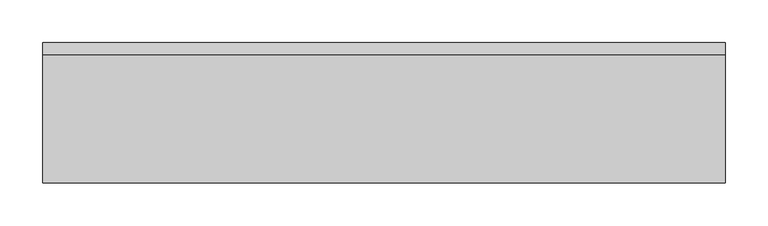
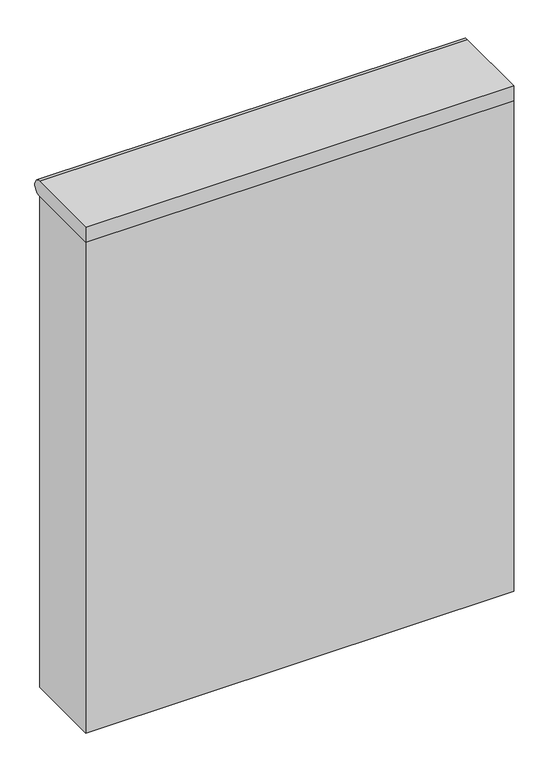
"""IFC4 building model written with IfcOpenShell, lengths in millimetres: flow terminal geometry, 洋式便器 - ライニング付 - 2D : タイプ 1."""

from ifc_helpers import new_model, si_unit, point, frame, frame_2d, origin, origin_with_axes, place, context, project, spatial, polyline, circle_curve, trimmed, segment, composite_curve, outline, extrude, source, transform, mapped, element, save


def flow_terminal_205c4ddb(model_context):
    return source(origin(), model_context, "Body", "SweptSolid", [
        extrude(outline(composite_curve([segment(trimmed(circle_curve(frame_2d((200.0, 985.0)), 15.0), [point((200.0, 1000.0))], [point((200.0, 970.0))], False, "CARTESIAN"), True, "CONTINUOUS"), segment(polyline([(200.0, 970.0), (50.0, 970.0), (50.0, 1000.0), (200.0, 1000.0)]), True, "CONTINUOUS")], self_intersect=False)), frame((-275.0, 0.0, 0.0), z_axis=(1.0, 0.0, 0.0), x_axis=(0.0, 1.0, 0.0)), (0.0, 0.0, 1.0), 800.0),
        extrude(outline(polyline([(525.0, 200.0), (525.0, 50.0), (-275.0, 50.0), (-275.0, 200.0), (525.0, 200.0)])), origin_with_axes(), (0.0, 0.0, 1.0), 970.0),
    ])


if __name__ == "__main__":
    model = new_model("IFC4")
    model_context = context("Model", 3, world=origin())
    ifc_project = project(units=[si_unit("LENGTHUNIT", "METRE", prefix="MILLI")], contexts=[model_context])
    site = spatial("IfcSite", under=ifc_project)
    building = spatial("IfcBuilding", under=site)
    placement = place(None, origin())
    flow_terminal_shape = flow_terminal_205c4ddb(model_context)
    element("IfcFlowTerminal", 1, ObjectType="洋式便器 - ライニング付 - 2D : タイプ 1", at=placement, inside=building, context=model_context, shape_type="MappedRepresentation", body=[
        mapped(flow_terminal_shape, transform((0.0, 0.0, 0.0), x_axis=(1.0, 0.0, 0.0), y_axis=(0.0, 1.0, 0.0), z_axis=(0.0, 0.0, 1.0))),
    ])
    save(model, "model.ifc")
